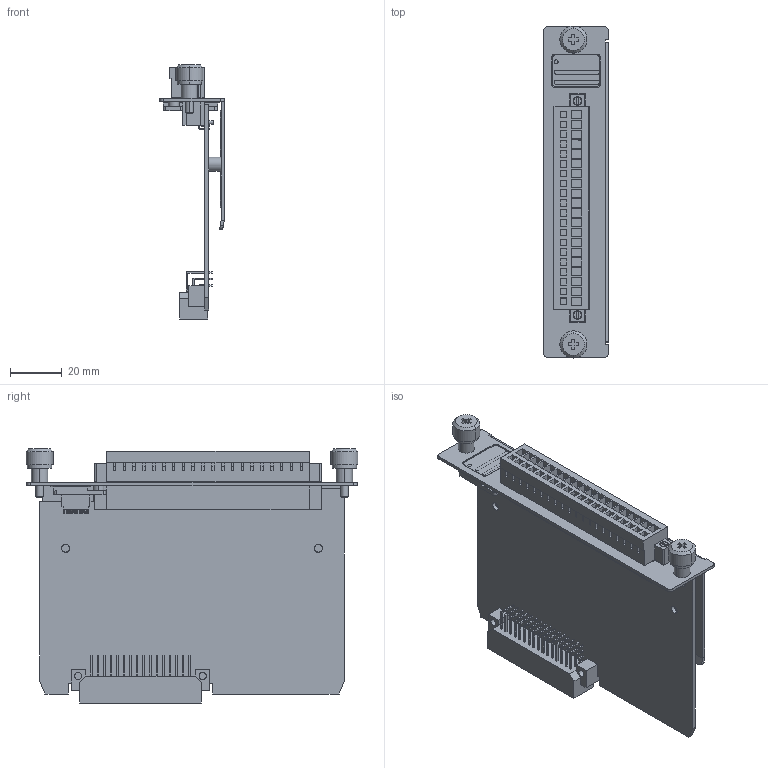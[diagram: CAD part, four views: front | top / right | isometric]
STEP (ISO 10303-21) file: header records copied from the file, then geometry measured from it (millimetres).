
FILE_DESCRIPTION((''),'2;1');
FILE_NAME('PRT0001','2015-06-25T',('Sam_Liu'),('PTC'),'PRO/ENGINEER BY PARAMETRIC TECHNOLOGY CORPORATION, 2013230','PRO/ENGINEER BY PARAMETRIC TECHNOLOGY CORPORATION, 2013230','');
FILE_SCHEMA(('AUTOMOTIVE_DESIGN { 1 0 10303 214 1 1 1 1 }'));
Length unit declared in the file: millimetre
Products named in the file (1): PRT0001
Bounding box: 25 x 128.7 x 98.5 mm (x, y, z)
Volume: 47653.4 mm3; surface area: 55467.9 mm2
Topology: 1 solids, 11 shells, 1947 faces, 5109 edges, 3352 vertices
Faces by surface type: plane 1509, cylinder 338, torus 92, cone 8
Entity records: 62246 total; most frequent: CARTESIAN_POINT 10966, ORIENTED_EDGE 10218, DIRECTION 9940, EDGE_CURVE 5109, VECTOR 4040, LINE 4040, VERTEX_POINT 3352, AXIS2_PLACEMENT_3D 2950
